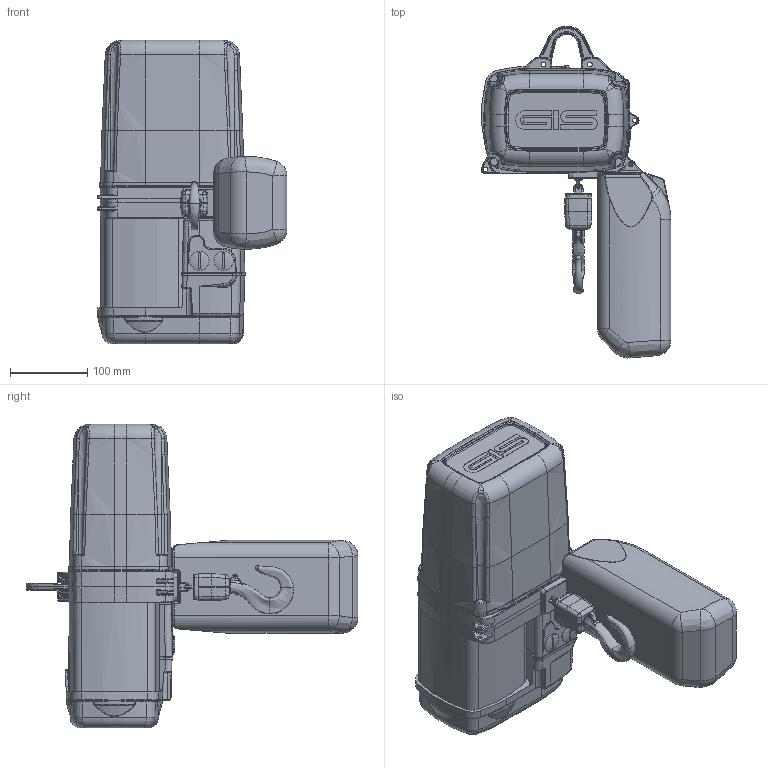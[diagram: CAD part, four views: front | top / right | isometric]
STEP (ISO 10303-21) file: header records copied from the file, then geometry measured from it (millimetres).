
FILE_DESCRIPTION(/* description */ (''),/* implementation_level */ '2;1');
FILE_NAME(/* name */ 'C:\Users\gisbsc\Desktop\Temp\GPM Light6..stp',/* time_stamp */ '2016-02-15T07:48:30+01:00',/* author */ ('gisbsc'),/* organization */ (''),/* preprocessor_version */ 'ST-DEVELOPER v15.6',/* originating_system */ 'Autodesk Inventor 2015',/* authorisation */ '');
FILE_SCHEMA (('AUTOMOTIVE_DESIGN { 1 0 10303 214 3 1 1 }'));
Length unit declared in the file: millimetre
Products named in the file (1): GPM Light5
Bounding box: 245.89 x 429.61 x 393.07 mm (x, y, z)
Volume: 10791752.8 mm3; surface area: 437649.4 mm2
Topology: 4 solids, 4 shells, 1933 faces, 4658 edges, 2678 vertices
Faces by surface type: bspline 663, cylinder 453, plane 327, torus 281, cone 146, sphere 63
Full cylindrical faces by diameter (mm): 3.2 x1, 4 x1, 5 x3, 5.8 x6, 6.3 x4, 6.4 x2, 20 x1, 25 x2
Entity records: 83223 total; most frequent: CARTESIAN_POINT 41562, ORIENTED_EDGE 9072, DIRECTION 8318, EDGE_CURVE 4536, AXIS2_PLACEMENT_3D 3533, VERTEX_POINT 2661, EDGE_LOOP 2013, FACE_OUTER_BOUND 1933
